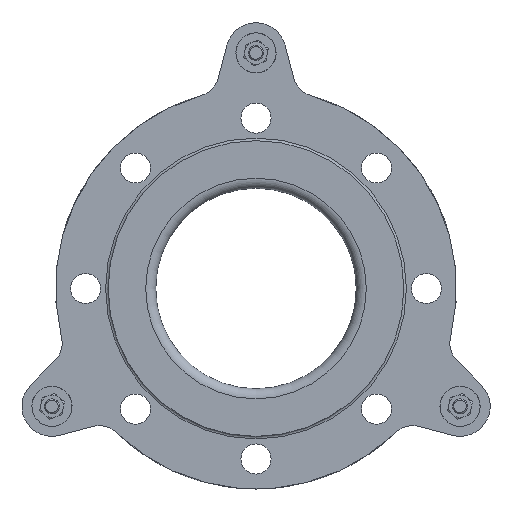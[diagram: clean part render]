
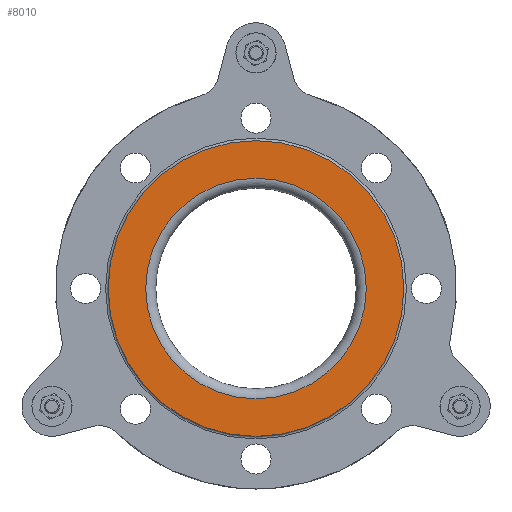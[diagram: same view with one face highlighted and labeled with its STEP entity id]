
A CAD part, front view. The second image highlights one B-rep face of the part: STEP entity #8010.
In plain terms, the highlighted planar face has unit normal (0, -1, 0).
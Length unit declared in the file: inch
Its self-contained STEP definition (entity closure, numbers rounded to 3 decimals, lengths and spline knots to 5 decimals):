
#1867=FACE_BOUND('',#2929,.T.);
#2247=FACE_OUTER_BOUND('',#2928,.T.);
#2928=EDGE_LOOP('',(#6769));
#2929=EDGE_LOOP('',(#6770));
#3504=CIRCLE('',#8867,3.6875);
#3505=CIRCLE('',#8869,2.75);
#4105=VERTEX_POINT('',#13863);
#4106=VERTEX_POINT('',#13866);
#5018=EDGE_CURVE('',#4105,#4105,#3504,.T.);
#5019=EDGE_CURVE('',#4106,#4106,#3505,.T.);
#6769=ORIENTED_EDGE('',*,*,#5018,.T.);
#6770=ORIENTED_EDGE('',*,*,#5019,.F.);
#7613=PLANE('',#8868);
#8010=ADVANCED_FACE('',(#2247,#1867),#7613,.T.);
#8867=AXIS2_PLACEMENT_3D('',#13864,#10672,#10673);
#8868=AXIS2_PLACEMENT_3D('',#13865,#10674,#10675);
#8869=AXIS2_PLACEMENT_3D('',#13867,#10676,#10677);
#10672=DIRECTION('center_axis',(0.,-1.,0.));
#10673=DIRECTION('ref_axis',(-1.,0.,0.));
#10674=DIRECTION('center_axis',(0.,-1.,0.));
#10675=DIRECTION('ref_axis',(-1.,0.,0.));
#10676=DIRECTION('center_axis',(0.,-1.,0.));
#10677=DIRECTION('ref_axis',(-1.,0.,0.));
#13863=CARTESIAN_POINT('',(-0.10846,-3.8125,-3.6875));
#13864=CARTESIAN_POINT('Origin',(-0.10846,-3.8125,0.));
#13865=CARTESIAN_POINT('Origin',(-0.10846,-3.8125,-2.75));
#13866=CARTESIAN_POINT('',(-0.10846,-3.8125,-2.75));
#13867=CARTESIAN_POINT('Origin',(-0.10846,-3.8125,0.));
